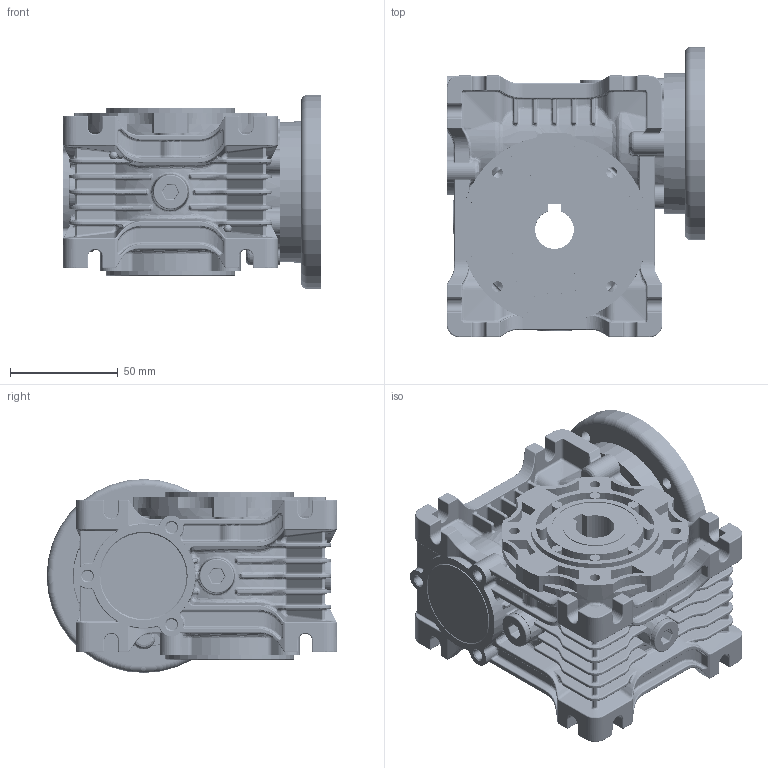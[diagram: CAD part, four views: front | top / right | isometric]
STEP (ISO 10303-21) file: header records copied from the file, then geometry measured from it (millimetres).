
FILE_DESCRIPTION (( 'STEP AP203' ), '1' );
FILE_NAME ('NMRV40-63B14.STEP', '2018-12-10T05:34:57', ( '微软中国' ), ( '微软中国' ), 'SwSTEP 2.0', 'SolidWorks 2016', '' );
FILE_SCHEMA (( 'CONFIG_CONTROL_DESIGN' ));
Products named in the file (1): NMRV40-63B14
Bounding box: 120 x 135 x 90 mm (x, y, z)
Surface area: 199657.3 mm2 (no closed solid volume)
Topology: 0 solids, 13 shells, 4921 faces, 11843 edges, 6650 vertices
Faces by surface type: bspline 2227, cylinder 1770, plane 773, cone 108, torus 43
Entity records: 222681 total; most frequent: CARTESIAN_POINT 129000, ORIENTED_EDGE 22982, DIRECTION 15379, EDGE_CURVE 11495, VERTEX_POINT 6650, AXIS2_PLACEMENT_3D 6018, EDGE_LOOP 5003, FACE_OUTER_BOUND 4921
